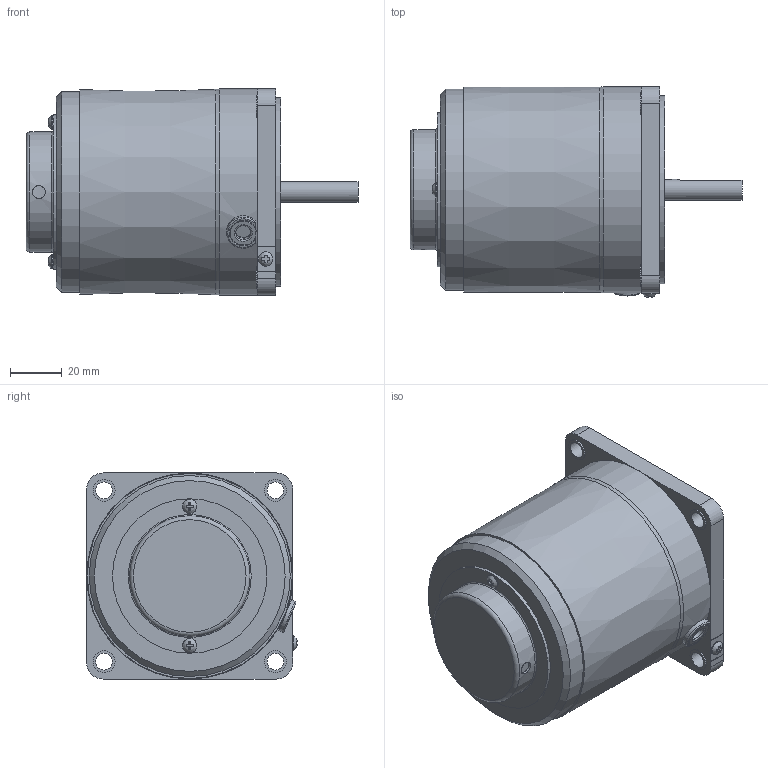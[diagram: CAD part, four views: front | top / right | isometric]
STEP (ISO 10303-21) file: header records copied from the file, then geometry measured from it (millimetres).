
FILE_DESCRIPTION(/* description */ (''),/* implementation_level */ '2;1');
FILE_NAME(/* name */ 'E:\도면작업\2016\0704) 미주향 SG 도면\3D MOTOR\SPEED CONTROL TYPE\SG8I(R)25K_-S12(24).stp',/* time_stamp */ '2017-08-21T11:08:11+09:00',/* author */ ('jy-jung'),/* organization */ (''),/* preprocessor_version */ 'ST-DEVELOPER v15.6',/* originating_system */ 'Autodesk Inventor 2015',/* authorisation */ '');
FILE_SCHEMA (('AUTOMOTIVE_DESIGN { 1 0 10303 214 3 1 1 }'));
Length unit declared in the file: millimetre
Products named in the file (1): 부품27
Bounding box: 128.8 x 81.76 x 80 mm (x, y, z)
Volume: 449226.8 mm3; surface area: 40345.9 mm2
Topology: 1 solids, 6 shells, 170 faces, 405 edges, 264 vertices
Faces by surface type: plane 107, cylinder 47, torus 10, bspline 3, cone 3
Full cylindrical faces by diameter (mm): 3 x2, 3.5 x2, 5 x1, 5.6 x3, 6 x1, 6.5 x4, 8 x1, 8.5 x4, 34 x1, 44.7 x1, 46.7 x1, 47.7 x1, 59.9 x1, 73 x1, 78 x1, 80 x1
Entity records: 5202 total; most frequent: CARTESIAN_POINT 1240, DIRECTION 753, ORIENTED_EDGE 724, EDGE_CURVE 362, AXIS2_PLACEMENT_3D 277, VERTEX_POINT 260, EDGE_LOOP 240, LINE 199
